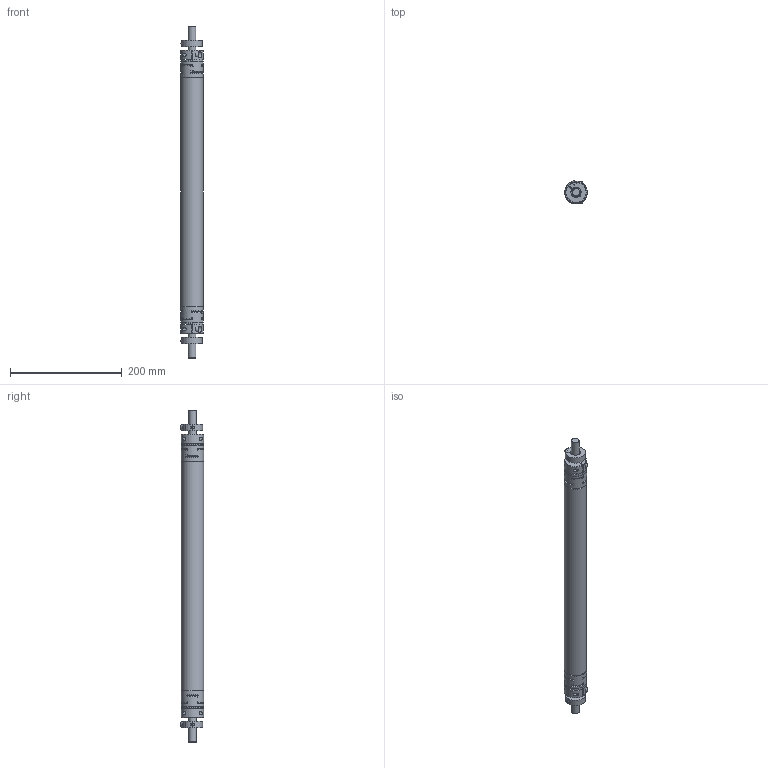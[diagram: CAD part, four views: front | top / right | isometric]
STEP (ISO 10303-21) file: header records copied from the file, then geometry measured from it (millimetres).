
FILE_DESCRIPTION(/* description */ ('Connecting shaft HLR080 - double axis distance = 600mm'),/* implementation_level */ '2;1');
FILE_NAME(/* name */ 'D:\InventorWorkspace2017\CAD\Projekte_EDEM\HLR\Zubehörteile\0242910-0600.stp',/* time_stamp */ '2019-02-13T11:23:07+01:00',/* author */ ('544672'),/* organization */ (''),/* preprocessor_version */ 'ST-DEVELOPER v16.5',/* originating_system */ 'Autodesk Inventor 2017',/* authorisation */ '');
FILE_SCHEMA (('AUTOMOTIVE_DESIGN { 1 0 10303 214 3 1 1 }'));
Length unit declared in the file: millimetre
Products named in the file (8): 0242.910-0600; 0241910-XXXX; ROTEX GS19 ZR3_Rohr_1; ROTEX GS19 ZR3_Klemmnabe D14; 0242007-02; 0241914; 0241012; 130-302345
Assembly tree (11 placements, depth 3):
  0242.910-0600
    0241910-XXXX
      ROTEX GS19 ZR3_Klemmnabe D14  x2
      ROTEX GS19 ZR3_Rohr_1
    0242007-02
      0241914  x2
      0241012  x2
      130-302345  x2
Bounding box: 40 x 41.78 x 595 mm (x, y, z)
Volume: 269254.9 mm3; surface area: 147332.6 mm2
Topology: 9 solids, 9 shells, 424 faces, 1188 edges, 790 vertices
Faces by surface type: cylinder 176, plane 154, cone 90, torus 4
Full cylindrical faces by diameter (mm): 3 x12, 4.917 x2, 6 x6, 6.4 x2, 6.6 x8, 10 x6, 14 x4, 18 x4, 22 x2, 34 x1, 39.4 x2, 40 x3
Entity records: 7305 total; most frequent: CARTESIAN_POINT 1526, DIRECTION 1269, ORIENTED_EDGE 1082, EDGE_CURVE 541, AXIS2_PLACEMENT_3D 540, VERTEX_POINT 383, EDGE_LOOP 294, CIRCLE 291
